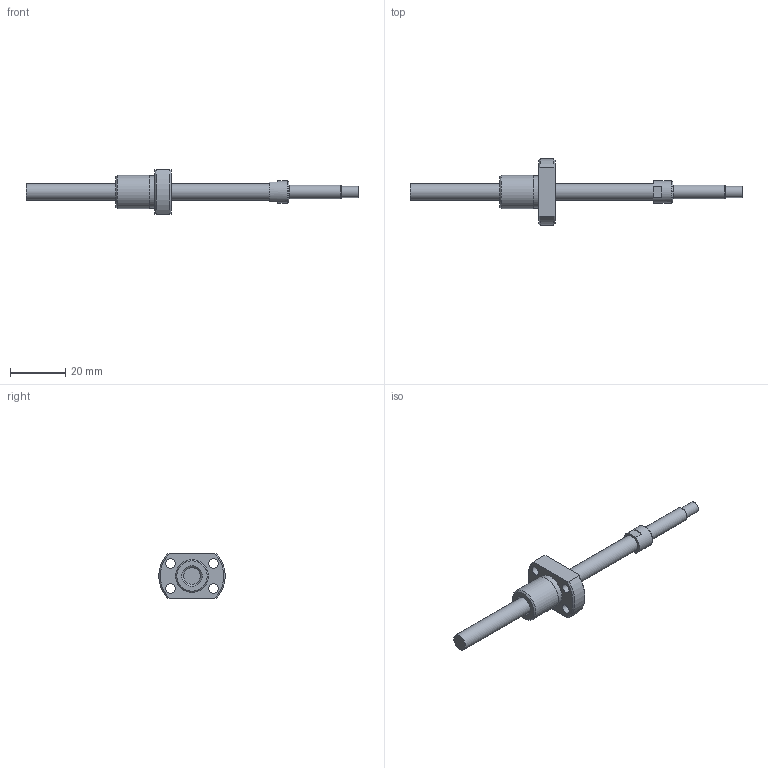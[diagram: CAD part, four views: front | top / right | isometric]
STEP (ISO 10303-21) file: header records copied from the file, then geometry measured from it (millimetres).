
FILE_DESCRIPTION(/* description */ ('STEP AP214'),/* implementation_level */ '2;1');
FILE_NAME(/* name */ 'NSGF0601Z-085R120C3-0-T-S-T-A-(32.5-S)',/* time_stamp */ '2026-08-24T20:03:22+02:00',/* author */ ('License CC BY-ND 4.0'),/* organization */ ('CADENAS'),/* preprocessor_version */ 'ST-DEVELOPER v20',/* originating_system */ 'PARTsolutions',/* authorisation */ ' ');
FILE_SCHEMA (('AUTOMOTIVE_DESIGN {1 0 10303 214 3 1 1}'));
Length unit declared in the file: millimetre
Products named in the file (3): NSGF0601Z-085R120C3-0-T-S-T-A-(32.5-S); NSG0601Z-85R120_(T-S_T-A_2)_2; NSGF0601Z-1
Assembly tree (2 placements, depth 2):
  NSGF0601Z-085R120C3-0-T-S-T-A-(32.5-S)
    NSG0601Z-85R120_(T-S_T-A_2)_2
    NSGF0601Z-1
Bounding box: 120 x 23.92 x 16 mm (x, y, z)
Volume: 5967.3 mm3; surface area: 4480.8 mm2
Topology: 2 solids, 2 shells, 39 faces, 85 edges, 56 vertices
Faces by surface type: plane 16, cylinder 14, cone 8, torus 1
Full cylindrical faces by diameter (mm): 3.4 x4, 4 x1, 5 x1, 6 x2, 8 x1, 10 x1, 11.7 x1, 12 x1
Entity records: 1065 total; most frequent: CARTESIAN_POINT 182, DIRECTION 180, ORIENTED_EDGE 128, AXIS2_PLACEMENT_3D 82, EDGE_LOOP 72, FACE_BOUND 72, EDGE_CURVE 64, VERTEX_POINT 52
